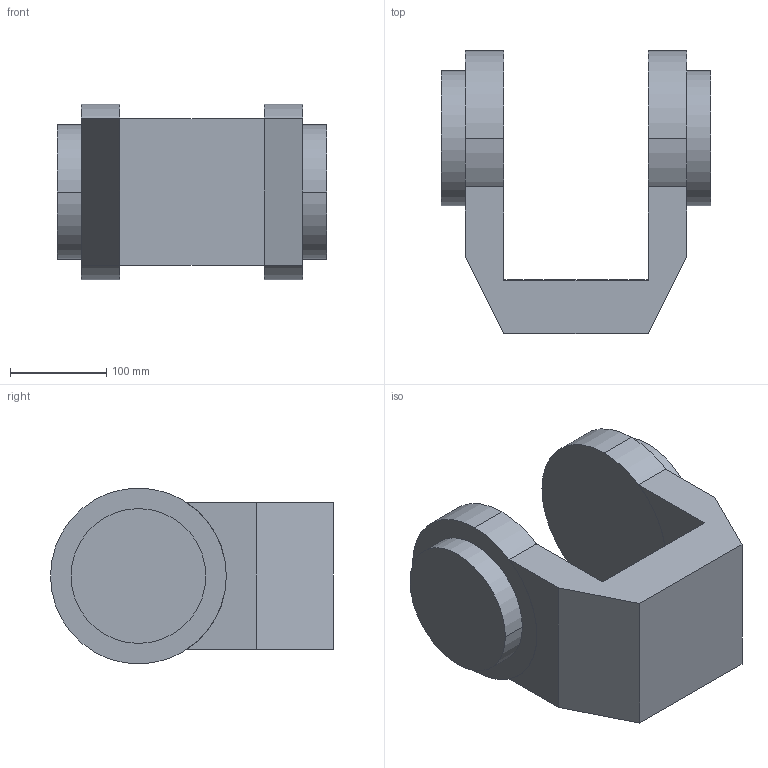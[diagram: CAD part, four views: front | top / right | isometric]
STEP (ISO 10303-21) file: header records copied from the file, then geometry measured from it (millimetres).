
FILE_DESCRIPTION (( 'STEP AP203' ), '1' );
FILE_NAME ('Soporte_Default_sldprt.STEP', '2022-03-13T17:40:48', ( '' ), ( '' ), 'SwSTEP 2.0', 'SolidWorks 2020', '' );
FILE_SCHEMA (( 'CONFIG_CONTROL_DESIGN' ));
Length unit declared in the file: millimetre
Products named in the file (1): Soporte_Default_sldprt
Bounding box: 280 x 293.77 x 182.52 mm (x, y, z)
Volume: 5139042.2 mm3; surface area: 425203.7 mm2
Topology: 6 solids, 6 shells, 32 faces, 60 edges, 40 vertices
Faces by surface type: plane 20, cylinder 12
Entity records: 875 total; most frequent: DIRECTION 150, CARTESIAN_POINT 133, ORIENTED_EDGE 120, EDGE_CURVE 60, AXIS2_PLACEMENT_3D 57, VERTEX_POINT 40, VECTOR 36, LINE 36
